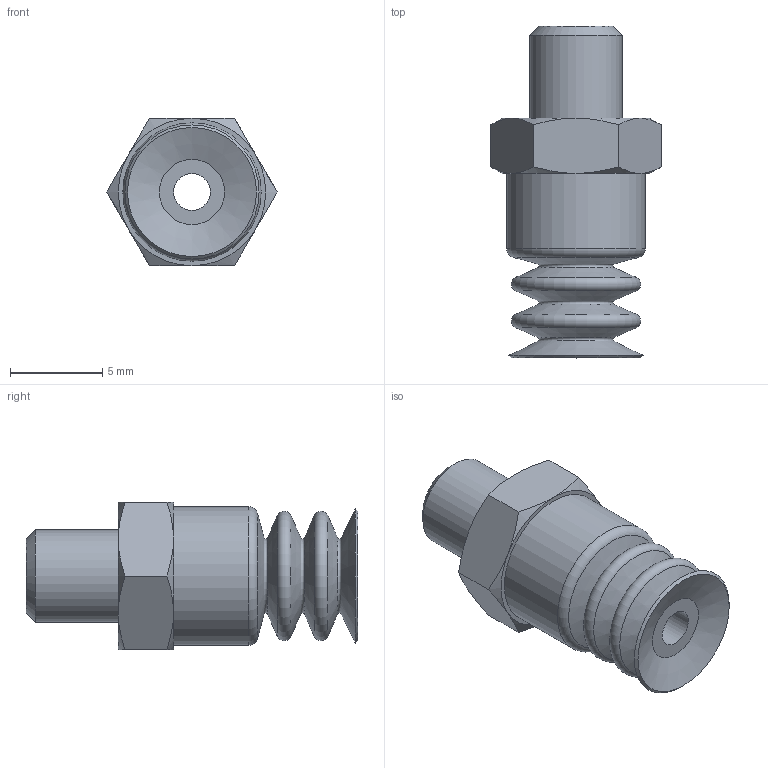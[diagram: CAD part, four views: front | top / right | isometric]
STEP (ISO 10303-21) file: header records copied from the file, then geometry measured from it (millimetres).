
FILE_DESCRIPTION(('STEP AP203'),'1');
FILE_NAME('.stp','2025-04-02T05:26:23',(' '),(' '),'Spatial InterOp 3D',' ',' ');
FILE_SCHEMA(('CONFIG_CONTROL_DESIGN'));
Length unit declared in the file: millimetre
Products named in the file (3): BPS-7-BC-M-※; PS-7-C-M 1; BPCG-7-※
Assembly tree (2 placements, depth 2):
  BPS-7-BC-M-※
    PS-7-C-M 1
    BPCG-7-※
Bounding box: 9.24 x 18 x 8 mm (x, y, z)
Volume: 536.8 mm3; surface area: 923.8 mm2
Topology: 2 solids, 2 shells, 56 faces, 108 edges, 61 vertices
Faces by surface type: cone 21, plane 15, torus 12, cylinder 8
Full cylindrical faces by diameter (mm): 2 x2, 4 x2, 5 x1, 6 x2, 7.5 x1
Entity records: 1410 total; most frequent: CARTESIAN_POINT 247, DIRECTION 222, ORIENTED_EDGE 158, AXIS2_PLACEMENT_3D 108, EDGE_LOOP 94, EDGE_CURVE 79, FACE_OUTER_BOUND 76, VERTEX_POINT 61
